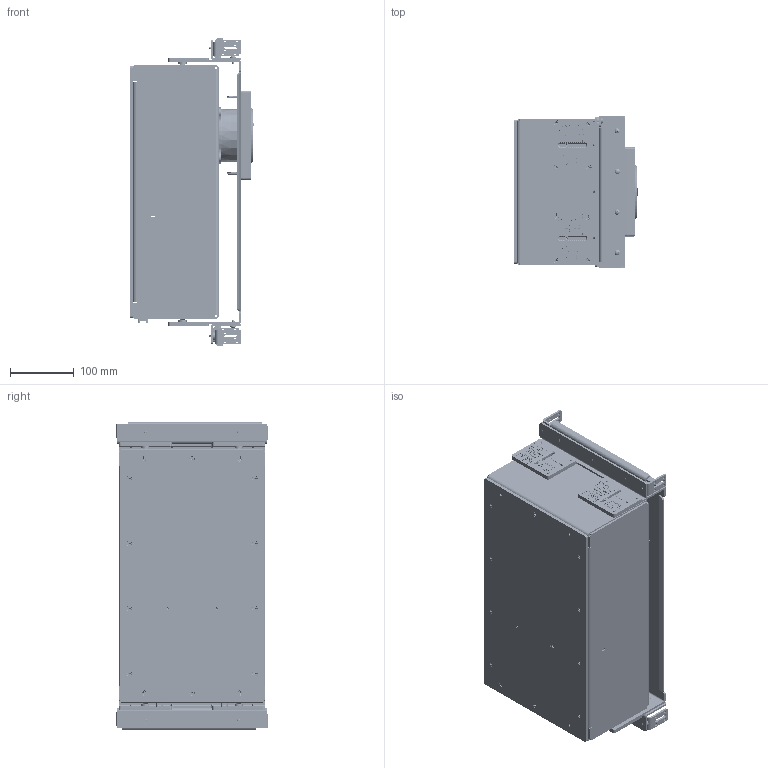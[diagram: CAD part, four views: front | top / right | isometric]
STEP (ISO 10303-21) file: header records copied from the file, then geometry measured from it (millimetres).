
FILE_DESCRIPTION (( 'STEP AP203' ), '1' );
FILE_NAME ('921200 Pre-Release RevA ICS3FR Assembly.STEP', '2025-12-17T17:30:38', ( '' ), ( '' ), 'SwSTEP 2.0', 'SolidWorks 2026', '' );
FILE_SCHEMA (( 'CONFIG_CONTROL_DESIGN' ));
Length unit declared in the file: inch
Products named in the file (84): WF168CUXX SS45_2; WF168CUXX SS45_11; 146130 RevA ICS3FR 3in Round Mud Plate; 148037 RevC Paint Shield 3in Round Small Ap; 94639A527_#8 0.5 x 0.125 Off-White Nylon Unthreaded Spacer_94639A527; 148200 RevA Tweeter Front Plate Small Ap; WF168CUXX SS45_1; WF168CUXX SS45_5; 146120 RevA ICS3FR Helmholtz Resonator; WF168CUXX SS45_8; WF168CUXX SS45_7; ICS3FR Sliding Bracket RevA; 121090 Screw 8-32x1_4 FHU Phil Blk Oxide_96640A122; Connector DC Jack Fiber Board; WF168CUXX SS45_13; 120630 Screw 8-32x1-1_2 FH Phillips Blk_96640A168; Color Dot; TBD RevA ICS3FR Woofer Back Mounting Gasket_Compressed; 161000 Terminal Cup 3 Inch OD Push Terminals; Same_Sky_PP3-002B; 148160 RevA Tweeter Housing Small Ap; 90434A174_Steel Flat Head Thread-Forming Screws for Plastic_90434A174; TBD RevA ICS3FR Port Tube Gasket_Compressed; ICS3FR Crossover X5.4; Resonator Foam Rev 3.0 84mm OD V2_Compressed; Terminal Cup; 146040 RevA ICS3FR Bracket Assembly_9.375in Minimum; 403500 RevA Felt Donut .125 Inch Thick; WF168CUXX SS45_9; 96765A120_#8 Black-Oxide 18-8 Stainless Steel Washer_96765A120; 300680 Tweeter ICS3 Assembled Small Ap; 7566K104 Cable Tie Mount #6 AL-SM1-0-C_7566K104; RAF_H632X180C_97171A130; 146000 RevA ICS3FR Housing; TBD RevA ICS3FR Mounting Plate Subassembly_Min Bracket Width V2 9.375in; 148000 RevA Tweeter Base Metal Small Ap; 91249A194_8-32 x 0.5 Black-Oxide 18-8 Stainless Steel Pan Head Phillips Screws_91249A194; TBD RevA ICS3FR Resonator Gasket_Compressed; WF168CUXX SS45_6; TBD RevA ICS3FR Housing Subassembly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
Assembly tree (198 placements, depth 5):
  921200 Pre-Release RevA ICS3FR Assembly
    TBD RevA ICS3FR Mounting Plate Subassembly_Min Bracket Width V2 9.375in
      146010 RevA ICS3FR Mounting Plate
      146100 RevA ICS3FR Depth Indexer  x4
      121090 Screw 8-32x1_4 FHU Phil Blk Oxide_96640A122  x16
      146040 RevA ICS3FR Bracket Assembly_9.375in Minimum  x2
        ICS3FR Middle Bracket RevA
        ICS3FR Sliding Bracket RevA
        94639A527_#8 0.5 x 0.125 Off-White Nylon Unthreaded Spacer_94639A527
        96765A120_#8 Black-Oxide 18-8 Stainless Steel Washer_96765A120
        91249A194_8-32 x 0.5 Black-Oxide 18-8 Stainless Steel Pan Head Phillips Screws_91249A194
      96765A120_#8 Black-Oxide 18-8 Stainless Steel Washer_96765A120  x8
      91249A192_8-32x0.375 Black-Oxide 18-8 Stainless Steel Pan Head Phillips Screws_91249A192  x8
      146030 RevA ICS3FR 0.125in Mud Plate Spacer
      146130 RevA ICS3FR 3in Round Mud Plate
      120630 Screw 8-32x1-1_2 FH Phillips Blk_96640A168  x4
    TBD RevA ICS3FR Housing Subassembly
      146000 RevA ICS3FR Housing
        146000 RevA ICS3FR Housing
        98280A240_8-32 Blind Zinc-Plated Steel Heavy-Duty Rivet Nut_Installed  x4
      TBD RevA ICS3FR Back Plate Gasket_Compressed
      TBD RevA ICS3FR Middle Brace Gasket_Compressed
      TBD RevA ICS3FR Port Tube Gasket_Compressed
      TBD RevA ICS3FR Resonator Gasket_Compressed
      TBD RevA ICS3FR Terminal Back Mounting Gasket_Compressed
      161000 Terminal Cup 3 Inch OD Push Terminals
        Terminal Cup
        Terminal Post  x2
        Color Dot
        Color Dot_Black. >
      146120 RevA ICS3FR Helmholtz Resonator
        146120 RevA ICS3FR Helmholtz Resonator
        RAF_H832X185C_97171A150  x5
      120560 Screw 8-32x1_2 FH Phillips Blk Oxide SS_96640A126  x17
      ICS3FR Crossover X5.4
      121310 Screw 6-32x3_8 FH Philips Blk SS_96640A115  x5
      146110 RevA ICS3FR Port Tube
        146110 RevA ICS3FR Port Tube
        RAF_H632X180C_97171A130
      Same_Sky_PP3-002B
      TBD RevA ICS3FR Woofer Back Mounting Gasket_Compressed
      Resonator Foam Rev 3.0 84mm OD V2_Compressed
      120630 Screw 8-32x1-1_2 FH Phillips Blk_96640A168  x4
      146150 RevA ICI6 Woofer Ring with Gasket
      92141A009_#8 18-8 Stainless Steel Washer_92141A009  x4
      120950 Nut KEP 8-32 Zinc_90675A009  x4
      96640A129_8-32x0.75 Black-Oxide 18-8 Stainless Steel Phillips Flat Head Screws_96640A129  x4
      120260 Nut Nylock 8-32 Stainless Steel_91831A009  x4
      121090 Screw 8-32x1_4 FHU Phil Blk Oxide_96640A122  x4
      7566K104 Cable Tie Mount #6 AL-SM1-0-C_7566K104  x2
      91249A146_6-32x0.375 Black-Oxide 18-8 Stainless Steel Pan Head Phillips Screws_91249A146  x4
      146020 RevA ICS3FR Housing Back Plate
      300680 Tweeter ICS3 Assembled Small Ap
        148000 RevA Tweeter Base Metal Small Ap
        791460 Magnet NdFeB N52 Disc Dia .625 x .625
        Acoustic Material Mag Motor Back
        403580 RevA Acoustic Felt Donut Magnet Motor Small Ap
        403530 EPT Foam Sealer Super Soft 687L 3mm x .2
        148160 RevA Tweeter Housing Small Ap
        Fiber Board RevC SLDPRT
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Bounding box: 195.36 x 238.12 x 481.33 mm (x, y, z)
Volume: 3618196.4 mm3; surface area: 1936074.7 mm2
Topology: 195 solids, 211 shells, 19124 faces, 51540 edges, 33539 vertices
Faces by surface type: plane 7338, cylinder 5151, bspline 3293, cone 2870, torus 416, sphere 56
Entity records: 303796 total; most frequent: CARTESIAN_POINT 140377, ORIENTED_EDGE 34226, DIRECTION 27511, EDGE_CURVE 17289, VERTEX_POINT 11258, AXIS2_PLACEMENT_3D 10325, EDGE_LOOP 7388, LINE 6861
